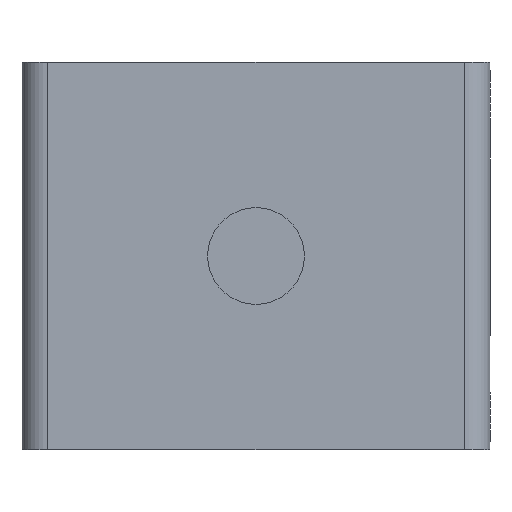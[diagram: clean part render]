
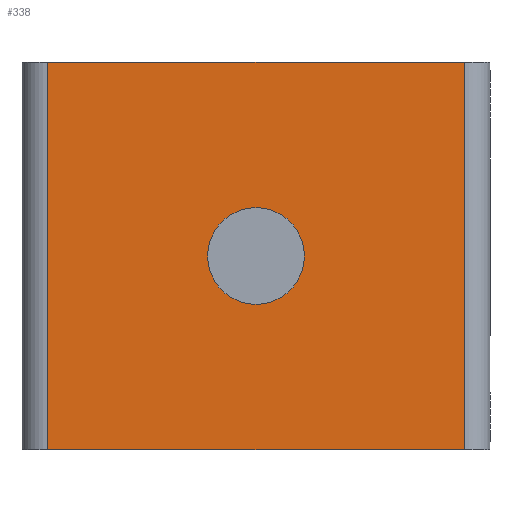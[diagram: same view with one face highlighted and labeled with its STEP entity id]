
A CAD part, front view. The second image highlights one B-rep face of the part: STEP entity #338.
In plain terms, the highlighted planar face has unit normal (0, -1, 0).
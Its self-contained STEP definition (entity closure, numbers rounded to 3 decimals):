
#18 = EDGE_CURVE ( 'NONE', #112, #1413, #976, .T. ) ;
#33 = CARTESIAN_POINT ( 'NONE',  ( 0., -35.97, -12. ) ) ;
#65 = CARTESIAN_POINT ( 'NONE',  ( 12.9, -35.97, -24. ) ) ;
#112 = VERTEX_POINT ( 'NONE', #3698 ) ;
#224 = DIRECTION ( 'NONE',  ( 0., -1., 0. ) ) ;
#272 = CIRCLE ( 'NONE', #695, 3. ) ;
#273 = ORIENTED_EDGE ( 'NONE', *, *, #2897, .T. ) ;
#338 = ADVANCED_FACE ( 'NONE', ( #1671, #3495 ), #4089, .F. ) ;
#339 = ORIENTED_EDGE ( 'NONE', *, *, #2346, .T. ) ;
#378 = DIRECTION ( 'NONE',  ( -1., 0., 0. ) ) ;
#639 = LINE ( 'NONE', #3514, #4182 ) ;
#695 = AXIS2_PLACEMENT_3D ( 'NONE', #33, #2426, #378 ) ;
#796 = VERTEX_POINT ( 'NONE', #3059 ) ;
#976 = CIRCLE ( 'NONE', #1399, 3. ) ;
#1149 = ORIENTED_EDGE ( 'NONE', *, *, #2948, .F. ) ;
#1281 = LINE ( 'NONE', #2396, #3801 ) ;
#1374 = DIRECTION ( 'NONE',  ( -1., 0., 0. ) ) ;
#1399 = AXIS2_PLACEMENT_3D ( 'NONE', #2269, #224, #2625 ) ;
#1413 = VERTEX_POINT ( 'NONE', #3902 ) ;
#1414 = EDGE_LOOP ( 'NONE', ( #3358, #1149 ) ) ;
#1458 = DIRECTION ( 'NONE',  ( 0., 0., -1. ) ) ;
#1494 = LINE ( 'NONE', #1561, #2310 ) ;
#1502 = EDGE_LOOP ( 'NONE', ( #1676, #4110, #273, #339 ) ) ;
#1561 = CARTESIAN_POINT ( 'NONE',  ( -12.9, -35.97, -12. ) ) ;
#1671 = FACE_BOUND ( 'NONE', #1414, .T. ) ;
#1676 = ORIENTED_EDGE ( 'NONE', *, *, #3204, .T. ) ;
#1701 = DIRECTION ( 'NONE',  ( 0., 0., 1. ) ) ;
#1810 = VECTOR ( 'NONE', #3247, 1000. ) ;
#1879 = CARTESIAN_POINT ( 'NONE',  ( 0., -35.97, -24. ) ) ;
#2161 = CARTESIAN_POINT ( 'NONE',  ( 12.9, -35.97, 0. ) ) ;
#2269 = CARTESIAN_POINT ( 'NONE',  ( 0., -35.97, -12. ) ) ;
#2310 = VECTOR ( 'NONE', #3974, 1000. ) ;
#2346 = EDGE_CURVE ( 'NONE', #3355, #796, #1494, .T. ) ;
#2396 = CARTESIAN_POINT ( 'NONE',  ( 0., -35.97, 0. ) ) ;
#2426 = DIRECTION ( 'NONE',  ( 0., -1., 0. ) ) ;
#2625 = DIRECTION ( 'NONE',  ( -1., 0., 0. ) ) ;
#2897 = EDGE_CURVE ( 'NONE', #3724, #3355, #1281, .T. ) ;
#2946 = LINE ( 'NONE', #1879, #1810 ) ;
#2948 = EDGE_CURVE ( 'NONE', #1413, #112, #272, .T. ) ;
#3059 = CARTESIAN_POINT ( 'NONE',  ( -12.9, -35.97, -24. ) ) ;
#3062 = EDGE_CURVE ( 'NONE', #3724, #4098, #639, .T. ) ;
#3067 = CARTESIAN_POINT ( 'NONE',  ( -12.9, -35.97, -24. ) ) ;
#3158 = AXIS2_PLACEMENT_3D ( 'NONE', #3067, #3760, #1701 ) ;
#3204 = EDGE_CURVE ( 'NONE', #796, #4098, #2946, .T. ) ;
#3247 = DIRECTION ( 'NONE',  ( 1., 0., 0. ) ) ;
#3355 = VERTEX_POINT ( 'NONE', #4358 ) ;
#3358 = ORIENTED_EDGE ( 'NONE', *, *, #18, .F. ) ;
#3495 = FACE_OUTER_BOUND ( 'NONE', #1502, .T. ) ;
#3514 = CARTESIAN_POINT ( 'NONE',  ( 12.9, -35.97, -12. ) ) ;
#3698 = CARTESIAN_POINT ( 'NONE',  ( -3., -35.97, -12. ) ) ;
#3724 = VERTEX_POINT ( 'NONE', #2161 ) ;
#3760 = DIRECTION ( 'NONE',  ( 0., 1., 0. ) ) ;
#3801 = VECTOR ( 'NONE', #1374, 1000. ) ;
#3902 = CARTESIAN_POINT ( 'NONE',  ( 3., -35.97, -12. ) ) ;
#3974 = DIRECTION ( 'NONE',  ( 0., 0., -1. ) ) ;
#4089 = PLANE ( 'NONE',  #3158 ) ;
#4098 = VERTEX_POINT ( 'NONE', #65 ) ;
#4110 = ORIENTED_EDGE ( 'NONE', *, *, #3062, .F. ) ;
#4182 = VECTOR ( 'NONE', #1458, 1000. ) ;
#4358 = CARTESIAN_POINT ( 'NONE',  ( -12.9, -35.97, 0. ) ) ;
